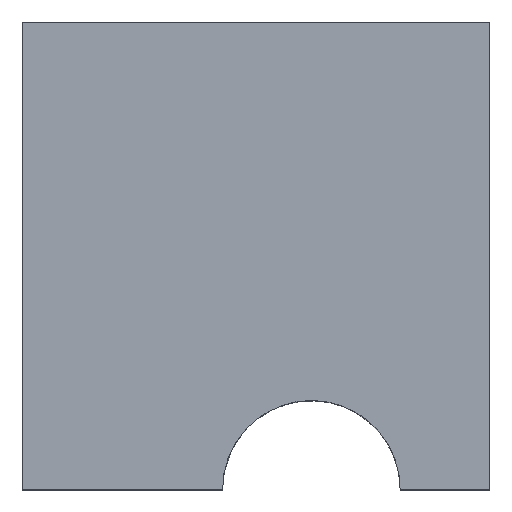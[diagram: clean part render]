
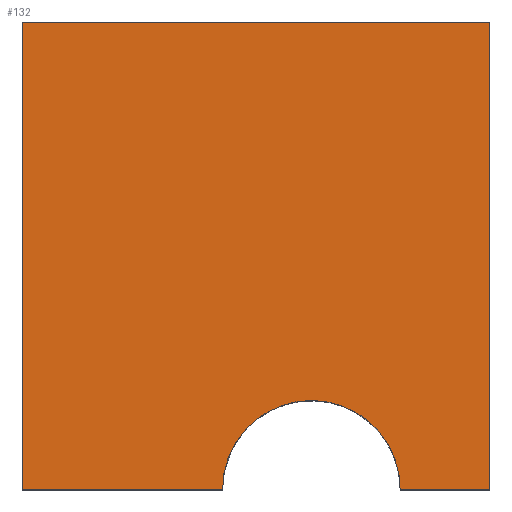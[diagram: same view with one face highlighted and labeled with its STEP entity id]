
A CAD part, top view. The second image highlights one B-rep face of the part: STEP entity #132.
In plain terms, the highlighted planar face has unit normal (0, 0, 1).
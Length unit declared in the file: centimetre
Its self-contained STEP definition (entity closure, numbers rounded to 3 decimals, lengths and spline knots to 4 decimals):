
#17 = ORIENTED_EDGE ( 'NONE', *, *, #409, .T. ) ;
#24 = CARTESIAN_POINT ( 'NONE',  ( 1000., 1000., 1000. ) ) ;
#35 = CARTESIAN_POINT ( 'NONE',  ( 428.5438, 0., 1000. ) ) ;
#37 = CARTESIAN_POINT ( 'NONE',  ( 618.5708, 0., 1000. ) ) ;
#40 = DIRECTION ( 'NONE',  ( -1., 0., 0. ) ) ;
#49 = EDGE_CURVE ( 'NONE', #228, #53, #195, .T. ) ;
#53 = VERTEX_POINT ( 'NONE', #35 ) ;
#55 = ORIENTED_EDGE ( 'NONE', *, *, #445, .T. ) ;
#70 = CARTESIAN_POINT ( 'NONE',  ( 0., 0., 1000. ) ) ;
#82 = ORIENTED_EDGE ( 'NONE', *, *, #323, .T. ) ;
#93 = ORIENTED_EDGE ( 'NONE', *, *, #501, .F. ) ;
#111 = VECTOR ( 'NONE', #125, 100. ) ;
#124 = ORIENTED_EDGE ( 'NONE', *, *, #49, .T. ) ;
#125 = DIRECTION ( 'NONE',  ( 1., 0., 0. ) ) ;
#132 = ADVANCED_FACE ( 'NONE', ( #144 ), #180, .T. ) ;
#134 = VERTEX_POINT ( 'NONE', #317 ) ;
#138 = DIRECTION ( 'NONE',  ( 0., 0., 1. ) ) ;
#142 = VERTEX_POINT ( 'NONE', #468 ) ;
#144 = FACE_OUTER_BOUND ( 'NONE', #397, .T. ) ;
#146 = VECTOR ( 'NONE', #251, 100. ) ;
#164 = DIRECTION ( 'NONE',  ( 1., 0., 0. ) ) ;
#180 = PLANE ( 'NONE',  #260 ) ;
#195 = LINE ( 'NONE', #70, #413 ) ;
#210 = LINE ( 'NONE', #422, #256 ) ;
#228 = VERTEX_POINT ( 'NONE', #257 ) ;
#249 = CIRCLE ( 'NONE', #338, 190.027 ) ;
#250 = CARTESIAN_POINT ( 'NONE',  ( 808.5978, 0., 1000. ) ) ;
#251 = DIRECTION ( 'NONE',  ( 0., -1., 0. ) ) ;
#256 = VECTOR ( 'NONE', #40, 100. ) ;
#257 = CARTESIAN_POINT ( 'NONE',  ( 0., 0., 1000. ) ) ;
#260 = AXIS2_PLACEMENT_3D ( 'NONE', #262, #138, #505 ) ;
#262 = CARTESIAN_POINT ( 'NONE',  ( 0., 0., 1000. ) ) ;
#280 = LINE ( 'NONE', #24, #281 ) ;
#281 = VECTOR ( 'NONE', #435, 100. ) ;
#292 = LINE ( 'NONE', #539, #111 ) ;
#298 = DIRECTION ( 'NONE',  ( 0., 0., 1. ) ) ;
#317 = CARTESIAN_POINT ( 'NONE',  ( 1000., 1000., 1000. ) ) ;
#321 = CARTESIAN_POINT ( 'NONE',  ( 0., 1000., 1000. ) ) ;
#323 = EDGE_CURVE ( 'NONE', #142, #134, #280, .T. ) ;
#325 = DIRECTION ( 'NONE',  ( 1., 0., 0. ) ) ;
#338 = AXIS2_PLACEMENT_3D ( 'NONE', #37, #298, #164 ) ;
#341 = ORIENTED_EDGE ( 'NONE', *, *, #494, .T. ) ;
#359 = VERTEX_POINT ( 'NONE', #321 ) ;
#385 = CARTESIAN_POINT ( 'NONE',  ( 0., 1000., 1000. ) ) ;
#397 = EDGE_LOOP ( 'NONE', ( #93, #341, #82, #17, #55, #124 ) ) ;
#409 = EDGE_CURVE ( 'NONE', #134, #359, #210, .T. ) ;
#413 = VECTOR ( 'NONE', #325, 100. ) ;
#418 = LINE ( 'NONE', #385, #146 ) ;
#422 = CARTESIAN_POINT ( 'NONE',  ( 0., 1000., 1000. ) ) ;
#435 = DIRECTION ( 'NONE',  ( 0., 1., 0. ) ) ;
#445 = EDGE_CURVE ( 'NONE', #359, #228, #418, .T. ) ;
#468 = CARTESIAN_POINT ( 'NONE',  ( 1000., 0., 1000. ) ) ;
#475 = VERTEX_POINT ( 'NONE', #250 ) ;
#494 = EDGE_CURVE ( 'NONE', #475, #142, #292, .T. ) ;
#501 = EDGE_CURVE ( 'NONE', #475, #53, #249, .T. ) ;
#505 = DIRECTION ( 'NONE',  ( 1., 0., 0. ) ) ;
#539 = CARTESIAN_POINT ( 'NONE',  ( 0., 0., 1000. ) ) ;
